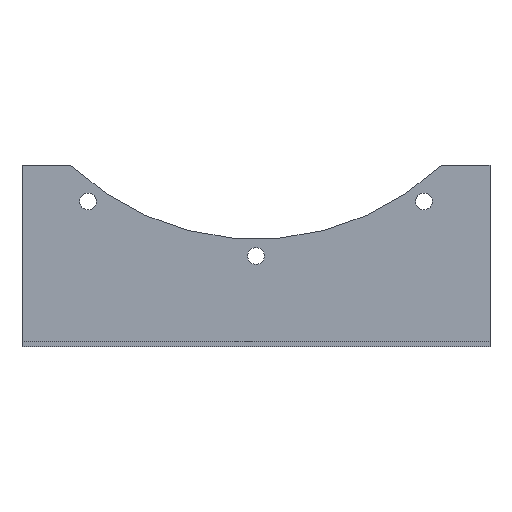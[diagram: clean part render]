
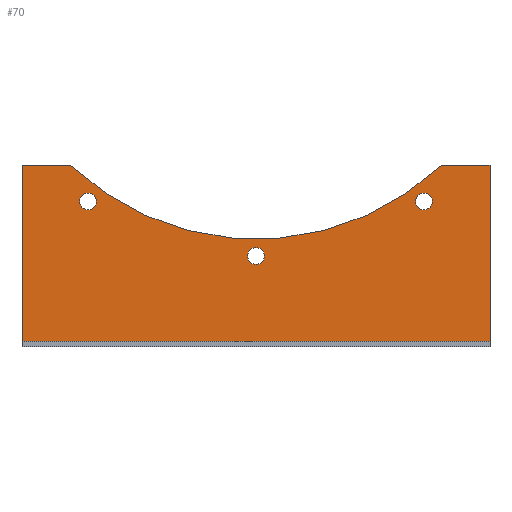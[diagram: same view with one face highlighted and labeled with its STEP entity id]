
A CAD part, top view. The second image highlights one B-rep face of the part: STEP entity #70.
In plain terms, the highlighted planar face has unit normal (0, 0, 1).
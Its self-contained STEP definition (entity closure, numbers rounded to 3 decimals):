
#70=ADVANCED_FACE('',(#143,#144,#145,#146),#147,.T.);
#143=FACE_BOUND('',#220,.T.);
#144=FACE_BOUND('',#221,.T.);
#145=FACE_BOUND('',#222,.T.);
#146=FACE_OUTER_BOUND('',#223,.T.);
#147=PLANE('',#224);
#220=EDGE_LOOP('',(#361,#362));
#221=EDGE_LOOP('',(#363,#364));
#222=EDGE_LOOP('',(#365,#366));
#223=EDGE_LOOP('',(#367,#368,#369,#370,#371,#372));
#224=AXIS2_PLACEMENT_3D('',#373,#374,#375);
#361=ORIENTED_EDGE('',*,*,#458,.T.);
#362=ORIENTED_EDGE('',*,*,#463,.T.);
#363=ORIENTED_EDGE('',*,*,#453,.T.);
#364=ORIENTED_EDGE('',*,*,#466,.T.);
#365=ORIENTED_EDGE('',*,*,#448,.T.);
#366=ORIENTED_EDGE('',*,*,#469,.T.);
#367=ORIENTED_EDGE('',*,*,#471,.T.);
#368=ORIENTED_EDGE('',*,*,#491,.F.);
#369=ORIENTED_EDGE('',*,*,#492,.F.);
#370=ORIENTED_EDGE('',*,*,#493,.F.);
#371=ORIENTED_EDGE('',*,*,#494,.F.);
#372=ORIENTED_EDGE('',*,*,#482,.F.);
#373=CARTESIAN_POINT('',(0.0,4.0,-8.0));
#374=DIRECTION('',(0.0,0.0,1.0));
#375=DIRECTION('',(1.0,0.0,0.0));
#448=EDGE_CURVE('',#532,#529,#533,.T.);
#453=EDGE_CURVE('',#541,#538,#542,.T.);
#458=EDGE_CURVE('',#550,#547,#551,.T.);
#463=EDGE_CURVE('',#547,#550,#557,.T.);
#466=EDGE_CURVE('',#538,#541,#560,.T.);
#469=EDGE_CURVE('',#529,#532,#563,.T.);
#471=EDGE_CURVE('',#565,#566,#567,.T.);
#482=EDGE_CURVE('',#565,#584,#585,.T.);
#491=EDGE_CURVE('',#594,#566,#595,.T.);
#492=EDGE_CURVE('',#596,#594,#597,.T.);
#493=EDGE_CURVE('',#598,#596,#599,.T.);
#494=EDGE_CURVE('',#584,#598,#600,.T.);
#529=VERTEX_POINT('',#643);
#532=VERTEX_POINT('',#647);
#533=CIRCLE('',#648,6.25);
#538=VERTEX_POINT('',#654);
#541=VERTEX_POINT('',#658);
#542=CIRCLE('',#659,6.25);
#547=VERTEX_POINT('',#665);
#550=VERTEX_POINT('',#669);
#551=CIRCLE('',#670,6.25);
#557=CIRCLE('',#677,6.25);
#560=CIRCLE('',#680,6.25);
#563=CIRCLE('',#683,6.25);
#565=VERTEX_POINT('',#685);
#566=VERTEX_POINT('',#686);
#567=CIRCLE('',#687,200.0);
#584=VERTEX_POINT('',#711);
#585=LINE('',#712,#713);
#594=VERTEX_POINT('',#723);
#595=LINE('',#724,#725);
#596=VERTEX_POINT('',#726);
#597=LINE('',#727,#728);
#598=VERTEX_POINT('',#729);
#599=LINE('',#730,#731);
#600=LINE('',#732,#733);
#643=CARTESIAN_POINT('',(6.25,0.,-8.0));
#647=CARTESIAN_POINT('',(-6.25,0.,-8.0));
#648=AXIS2_PLACEMENT_3D('',#779,#780,#781);
#654=CARTESIAN_POINT('',(129.961,44.258,-8.0));
#658=CARTESIAN_POINT('',(119.848,36.91,-8.0));
#659=AXIS2_PLACEMENT_3D('',#787,#788,#789);
#665=CARTESIAN_POINT('',(-119.848,36.91,-8.0));
#669=CARTESIAN_POINT('',(-129.961,44.258,-8.0));
#670=AXIS2_PLACEMENT_3D('',#795,#796,#797);
#677=AXIS2_PLACEMENT_3D('',#805,#806,#807);
#680=AXIS2_PLACEMENT_3D('',#811,#812,#813);
#683=AXIS2_PLACEMENT_3D('',#817,#818,#819);
#685=CARTESIAN_POINT('',(137.75,67.5,-8.0));
#686=CARTESIAN_POINT('',(-137.75,67.5,-8.0));
#687=AXIS2_PLACEMENT_3D('',#820,#821,#822);
#711=CARTESIAN_POINT('',(174.0,67.5,-8.0));
#712=CARTESIAN_POINT('',(0.0,67.5,-8.0));
#713=VECTOR('',#833,1.0);
#723=CARTESIAN_POINT('',(-174.0,67.5,-8.0));
#724=CARTESIAN_POINT('',(0.0,67.5,-8.0));
#725=VECTOR('',#847,1.0);
#726=CARTESIAN_POINT('',(-174.0,-63.5,-8.0));
#727=CARTESIAN_POINT('',(-174.0,2.0,-8.0));
#728=VECTOR('',#848,1.0);
#729=CARTESIAN_POINT('',(174.0,-63.5,-8.0));
#730=CARTESIAN_POINT('',(0.0,-63.5,-8.0));
#731=VECTOR('',#849,1.0);
#732=CARTESIAN_POINT('',(174.0,2.0,-8.0));
#733=VECTOR('',#850,1.0);
#779=CARTESIAN_POINT('',(0.0,0.0,-8.0));
#780=DIRECTION('',(0.0,0.0,-1.0));
#781=DIRECTION('',(1.0,0.0,0.0));
#787=CARTESIAN_POINT('',(124.904,40.584,-8.0));
#788=DIRECTION('',(0.0,0.0,-1.0));
#789=DIRECTION('',(0.809,0.588,0.0));
#795=CARTESIAN_POINT('',(-124.904,40.584,-8.0));
#796=DIRECTION('',(0.0,-0.0,-1.0));
#797=DIRECTION('',(0.809,-0.588,0.0));
#805=CARTESIAN_POINT('',(-124.904,40.584,-8.0));
#806=DIRECTION('',(0.0,-0.0,-1.0));
#807=DIRECTION('',(0.809,-0.588,0.0));
#811=CARTESIAN_POINT('',(124.904,40.584,-8.0));
#812=DIRECTION('',(0.0,0.0,-1.0));
#813=DIRECTION('',(0.809,0.588,0.0));
#817=CARTESIAN_POINT('',(0.0,0.0,-8.0));
#818=DIRECTION('',(0.0,0.0,-1.0));
#819=DIRECTION('',(1.0,0.0,0.0));
#820=CARTESIAN_POINT('',(0.0,212.5,-8.0));
#821=DIRECTION('',(0.0,0.0,-1.0));
#822=DIRECTION('',(1.0,0.0,0.0));
#833=DIRECTION('',(1.0,0.0,-0.0));
#847=DIRECTION('',(1.0,0.0,-0.0));
#848=DIRECTION('',(0.0,1.0,0.0));
#849=DIRECTION('',(-1.0,0.0,0.0));
#850=DIRECTION('',(0.0,-1.0,0.0));
